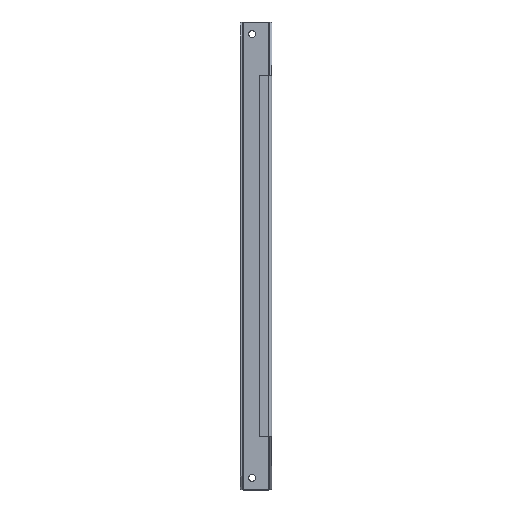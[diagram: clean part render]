
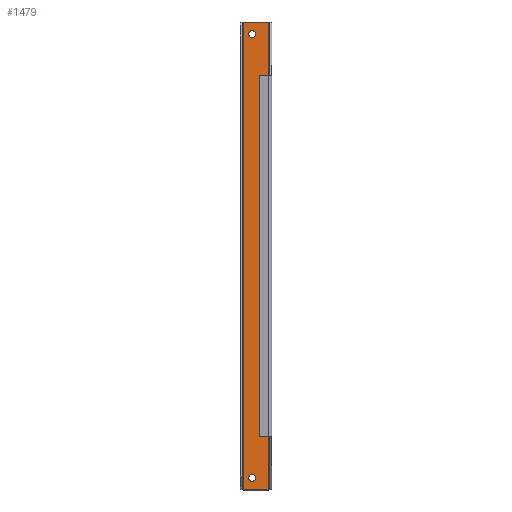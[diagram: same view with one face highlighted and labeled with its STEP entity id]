
A CAD part, top view. The second image highlights one B-rep face of the part: STEP entity #1479.
In plain terms, the highlighted planar face has unit normal (0, 0, 1).
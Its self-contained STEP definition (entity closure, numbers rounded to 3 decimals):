
#5 = DIRECTION ( 'NONE',  ( 0., -1., 0. ) ) ;
#35 = CARTESIAN_POINT ( 'NONE',  ( -16.5, 297.5, 0. ) ) ;
#213 = VERTEX_POINT ( 'NONE', #885 ) ;
#293 = ORIENTED_EDGE ( 'NONE', *, *, #1773, .F. ) ;
#307 = ORIENTED_EDGE ( 'NONE', *, *, #432, .F. ) ;
#366 = LINE ( 'NONE', #502, #1958 ) ;
#432 = EDGE_CURVE ( 'NONE', #990, #3018, #2784, .T. ) ;
#468 = VERTEX_POINT ( 'NONE', #3132 ) ;
#502 = CARTESIAN_POINT ( 'NONE',  ( 20., -297.5, 0. ) ) ;
#613 = LINE ( 'NONE', #900, #2721 ) ;
#621 = FACE_BOUND ( 'NONE', #1698, .T. ) ;
#695 = ORIENTED_EDGE ( 'NONE', *, *, #2230, .T. ) ;
#728 = ORIENTED_EDGE ( 'NONE', *, *, #3122, .F. ) ;
#885 = CARTESIAN_POINT ( 'NONE',  ( 16.5, -297.5, 0. ) ) ;
#896 = EDGE_CURVE ( 'NONE', #2666, #213, #3243, .T. ) ;
#900 = CARTESIAN_POINT ( 'NONE',  ( -16.5, -297.5, 0. ) ) ;
#928 = EDGE_LOOP ( 'NONE', ( #293, #307 ) ) ;
#982 = DIRECTION ( 'NONE',  ( -1., 0., 0. ) ) ;
#990 = VERTEX_POINT ( 'NONE', #3316 ) ;
#993 = CARTESIAN_POINT ( 'NONE',  ( -5., 282., 0. ) ) ;
#1078 = CARTESIAN_POINT ( 'NONE',  ( 16.5, 297.5, 0. ) ) ;
#1080 = ORIENTED_EDGE ( 'NONE', *, *, #1343, .F. ) ;
#1187 = CARTESIAN_POINT ( 'NONE',  ( -5., 282., 0. ) ) ;
#1202 = DIRECTION ( 'NONE',  ( 0., 1., 0. ) ) ;
#1217 = FACE_OUTER_BOUND ( 'NONE', #3108, .T. ) ;
#1255 = CIRCLE ( 'NONE', #2421, 4.5 ) ;
#1288 = CARTESIAN_POINT ( 'NONE',  ( -0.5, 282., 0. ) ) ;
#1329 = DIRECTION ( 'NONE',  ( 1., 0., 0. ) ) ;
#1343 = EDGE_CURVE ( 'NONE', #1582, #468, #3241, .T. ) ;
#1353 = DIRECTION ( 'NONE',  ( 0., 0., 1. ) ) ;
#1361 = CIRCLE ( 'NONE', #2380, 4.5 ) ;
#1451 = LINE ( 'NONE', #3216, #3154 ) ;
#1479 = ADVANCED_FACE ( 'NONE', ( #2486, #621, #1217 ), #1836, .T. ) ;
#1557 = VERTEX_POINT ( 'NONE', #35 ) ;
#1562 = ORIENTED_EDGE ( 'NONE', *, *, #896, .F. ) ;
#1582 = VERTEX_POINT ( 'NONE', #1617 ) ;
#1617 = CARTESIAN_POINT ( 'NONE',  ( -0.5, -282., 0. ) ) ;
#1677 = DIRECTION ( 'NONE',  ( 0., 0., 1. ) ) ;
#1698 = EDGE_LOOP ( 'NONE', ( #1080, #728 ) ) ;
#1773 = EDGE_CURVE ( 'NONE', #3018, #990, #1255, .T. ) ;
#1791 = DIRECTION ( 'NONE',  ( 1., 0., 0. ) ) ;
#1836 = PLANE ( 'NONE',  #2054 ) ;
#1873 = DIRECTION ( 'NONE',  ( 1., 0., 0. ) ) ;
#1896 = CARTESIAN_POINT ( 'NONE',  ( 16.5, 297.5, 0. ) ) ;
#1932 = AXIS2_PLACEMENT_3D ( 'NONE', #993, #3418, #982 ) ;
#1958 = VECTOR ( 'NONE', #1873, 1000. ) ;
#2054 = AXIS2_PLACEMENT_3D ( 'NONE', #2109, #2390, #2930 ) ;
#2060 = CARTESIAN_POINT ( 'NONE',  ( -16.5, -297.5, 0. ) ) ;
#2075 = CARTESIAN_POINT ( 'NONE',  ( -5., -282., 0. ) ) ;
#2098 = VECTOR ( 'NONE', #5, 1000. ) ;
#2109 = CARTESIAN_POINT ( 'NONE',  ( 0., 0., 0. ) ) ;
#2141 = EDGE_CURVE ( 'NONE', #2666, #1557, #1451, .T. ) ;
#2158 = CARTESIAN_POINT ( 'NONE',  ( -5., -282., 0. ) ) ;
#2230 = EDGE_CURVE ( 'NONE', #2440, #213, #366, .T. ) ;
#2380 = AXIS2_PLACEMENT_3D ( 'NONE', #2158, #1353, #1329 ) ;
#2390 = DIRECTION ( 'NONE',  ( 0., 0., 1. ) ) ;
#2421 = AXIS2_PLACEMENT_3D ( 'NONE', #1187, #1677, #3069 ) ;
#2440 = VERTEX_POINT ( 'NONE', #2060 ) ;
#2486 = FACE_BOUND ( 'NONE', #928, .T. ) ;
#2630 = DIRECTION ( 'NONE',  ( 0., 0., 1. ) ) ;
#2666 = VERTEX_POINT ( 'NONE', #1078 ) ;
#2721 = VECTOR ( 'NONE', #1202, 1000. ) ;
#2784 = CIRCLE ( 'NONE', #1932, 4.5 ) ;
#2868 = EDGE_CURVE ( 'NONE', #2440, #1557, #613, .T. ) ;
#2930 = DIRECTION ( 'NONE',  ( 1., 0., 0. ) ) ;
#2945 = ORIENTED_EDGE ( 'NONE', *, *, #2868, .F. ) ;
#2959 = DIRECTION ( 'NONE',  ( -1., 0., 0. ) ) ;
#2960 = AXIS2_PLACEMENT_3D ( 'NONE', #2075, #2630, #1791 ) ;
#2984 = ORIENTED_EDGE ( 'NONE', *, *, #2141, .T. ) ;
#3018 = VERTEX_POINT ( 'NONE', #1288 ) ;
#3069 = DIRECTION ( 'NONE',  ( -1., 0., 0. ) ) ;
#3108 = EDGE_LOOP ( 'NONE', ( #695, #1562, #2984, #2945 ) ) ;
#3122 = EDGE_CURVE ( 'NONE', #468, #1582, #1361, .T. ) ;
#3132 = CARTESIAN_POINT ( 'NONE',  ( -9.5, -282., 0. ) ) ;
#3154 = VECTOR ( 'NONE', #2959, 1000. ) ;
#3216 = CARTESIAN_POINT ( 'NONE',  ( 20., 297.5, 0. ) ) ;
#3241 = CIRCLE ( 'NONE', #2960, 4.5 ) ;
#3243 = LINE ( 'NONE', #1896, #2098 ) ;
#3316 = CARTESIAN_POINT ( 'NONE',  ( -9.5, 282., 0. ) ) ;
#3418 = DIRECTION ( 'NONE',  ( 0., 0., 1. ) ) ;
